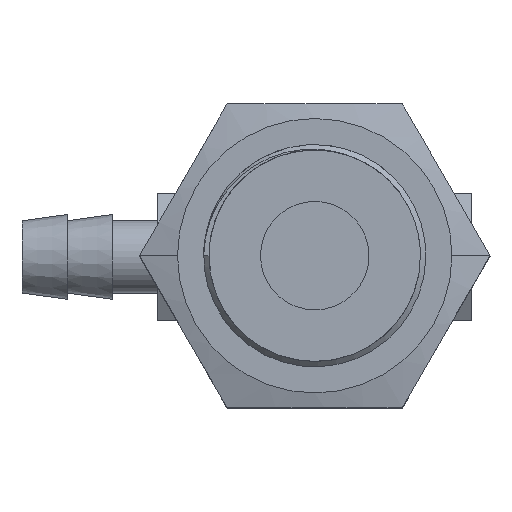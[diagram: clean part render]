
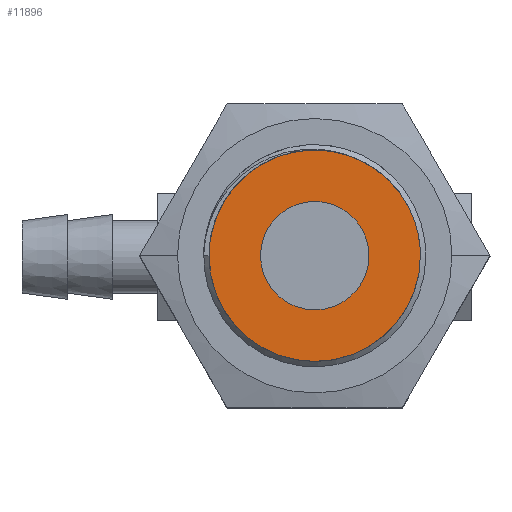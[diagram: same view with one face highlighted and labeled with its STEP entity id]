
A CAD part, top view. The second image highlights one B-rep face of the part: STEP entity #11896.
In plain terms, the highlighted planar face has unit normal (0, 0, 1).
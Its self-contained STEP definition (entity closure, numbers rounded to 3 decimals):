
#7 = CARTESIAN_POINT ( 'NONE',  ( -2.793, 4.449, 24.5 ) ) ;
#278 = ORIENTED_EDGE ( 'NONE', *, *, #583, .F. ) ;
#317 = CIRCLE ( 'NONE', #14668, 3. ) ;
#553 = CARTESIAN_POINT ( 'NONE',  ( 7.038, 0.149, 24.5 ) ) ;
#583 = EDGE_CURVE ( 'NONE', #2892, #2949, #11264, .T. ) ;
#882 = DIRECTION ( 'NONE',  ( 0., 0., 1. ) ) ;
#1067 = CARTESIAN_POINT ( 'NONE',  ( 6.641, 2.298, 24.5 ) ) ;
#1118 = CARTESIAN_POINT ( 'NONE',  ( 2.656, 5.823, 24.5 ) ) ;
#1163 = CARTESIAN_POINT ( 'NONE',  ( -3.486, 3.683, 24.5 ) ) ;
#1382 = DIRECTION ( 'NONE',  ( 0., 0., 1. ) ) ;
#1465 = CARTESIAN_POINT ( 'NONE',  ( 1.188, 0.149, 24.5 ) ) ;
#1896 = ORIENTED_EDGE ( 'NONE', *, *, #5586, .T. ) ;
#2226 = CARTESIAN_POINT ( 'NONE',  ( 1.634, 5.993, 24.5 ) ) ;
#2267 = CARTESIAN_POINT ( 'NONE',  ( -4.034, 2.808, 24.5 ) ) ;
#2382 = EDGE_LOOP ( 'NONE', ( #11613, #1896, #13522 ) ) ;
#2599 = DIRECTION ( 'NONE',  ( -1., 0., 0. ) ) ;
#2694 = VERTEX_POINT ( 'NONE', #9633 ) ;
#2892 = VERTEX_POINT ( 'NONE', #11096 ) ;
#2949 = VERTEX_POINT ( 'NONE', #6749 ) ;
#3332 = CARTESIAN_POINT ( 'NONE',  ( 6.175, 3.228, 24.5 ) ) ;
#3381 = CARTESIAN_POINT ( 'NONE',  ( 0.605, 5.98, 24.5 ) ) ;
#3421 = CARTESIAN_POINT ( 'NONE',  ( -4.42, 1.848, 24.5 ) ) ;
#3730 = AXIS2_PLACEMENT_3D ( 'NONE', #11708, #4892, #12887 ) ;
#4474 = EDGE_LOOP ( 'NONE', ( #11816, #278 ) ) ;
#4486 = CARTESIAN_POINT ( 'NONE',  ( 5.559, 4.053, 24.5 ) ) ;
#4543 = CARTESIAN_POINT ( 'NONE',  ( -0.414, 5.786, 24.5 ) ) ;
#4587 = CARTESIAN_POINT ( 'NONE',  ( -4.631, 0.839, 24.5 ) ) ;
#4892 = DIRECTION ( 'NONE',  ( 0., 0., 1. ) ) ;
#4954 = AXIS2_PLACEMENT_3D ( 'NONE', #1465, #9432, #2599 ) ;
#5586 = EDGE_CURVE ( 'NONE', #10222, #12583, #9090, .T. ) ;
#5633 = CARTESIAN_POINT ( 'NONE',  ( 4.802, 4.762, 24.5 ) ) ;
#5658 = EDGE_CURVE ( 'NONE', #12583, #2694, #6579, .T. ) ;
#5683 = CARTESIAN_POINT ( 'NONE',  ( -1.374, 5.42, 24.5 ) ) ;
#5728 = CARTESIAN_POINT ( 'NONE',  ( -4.662, 0.149, 24.5 ) ) ;
#6575 = DIRECTION ( 'NONE',  ( 0., 0., 1. ) ) ;
#6579 = CIRCLE ( 'NONE', #4954, 5.85 ) ;
#6692 = AXIS2_PLACEMENT_3D ( 'NONE', #13466, #6575, #14610 ) ;
#6749 = CARTESIAN_POINT ( 'NONE',  ( 4.188, 0.149, 24.5 ) ) ;
#6759 = CARTESIAN_POINT ( 'NONE',  ( 3.94, 5.323, 24.5 ) ) ;
#6810 = CARTESIAN_POINT ( 'NONE',  ( -2.263, 4.885, 24.5 ) ) ;
#7088 = EDGE_CURVE ( 'NONE', #2694, #10222, #11714, .T. ) ;
#7676 = CARTESIAN_POINT ( 'NONE',  ( 1.188, 0.149, 24.5 ) ) ;
#7921 = CARTESIAN_POINT ( 'NONE',  ( 2.985, 5.727, 24.5 ) ) ;
#7967 = CARTESIAN_POINT ( 'NONE',  ( -3.038, 4.209, 24.5 ) ) ;
#8179 = CARTESIAN_POINT ( 'NONE',  ( 1.188, 0.149, 24.5 ) ) ;
#8663 = FACE_OUTER_BOUND ( 'NONE', #2382, .T. ) ;
#8834 = DIRECTION ( 'NONE',  ( 1., 0., 0. ) ) ;
#9009 = CARTESIAN_POINT ( 'NONE',  ( 6.749, 1.968, 24.5 ) ) ;
#9054 = CARTESIAN_POINT ( 'NONE',  ( 1.982, 5.956, 24.5 ) ) ;
#9090 = CIRCLE ( 'NONE', #11353, 5.85 ) ;
#9098 = CARTESIAN_POINT ( 'NONE',  ( -3.688, 3.4, 24.5 ) ) ;
#9333 = DIRECTION ( 'NONE',  ( -1., 0., 0. ) ) ;
#9432 = DIRECTION ( 'NONE',  ( 0., 0., 1. ) ) ;
#9633 = CARTESIAN_POINT ( 'NONE',  ( 6.749, 1.968, 24.5 ) ) ;
#10146 = CARTESIAN_POINT ( 'NONE',  ( 6.503, 2.618, 24.5 ) ) ;
#10194 = CARTESIAN_POINT ( 'NONE',  ( 0.947, 6.005, 24.5 ) ) ;
#10222 = VERTEX_POINT ( 'NONE', #10293 ) ;
#10245 = CARTESIAN_POINT ( 'NONE',  ( -4.181, 2.498, 24.5 ) ) ;
#10293 = CARTESIAN_POINT ( 'NONE',  ( -4.662, 0.149, 24.5 ) ) ;
#11096 = CARTESIAN_POINT ( 'NONE',  ( -1.812, 0.149, 24.5 ) ) ;
#11264 = CIRCLE ( 'NONE', #3730, 3. ) ;
#11317 = CARTESIAN_POINT ( 'NONE',  ( 5.986, 3.515, 24.5 ) ) ;
#11353 = AXIS2_PLACEMENT_3D ( 'NONE', #8179, #1382, #9333 ) ;
#11361 = CARTESIAN_POINT ( 'NONE',  ( -0.075, 5.872, 24.5 ) ) ;
#11405 = CARTESIAN_POINT ( 'NONE',  ( -4.51, 1.514, 24.5 ) ) ;
#11613 = ORIENTED_EDGE ( 'NONE', *, *, #7088, .T. ) ;
#11708 = CARTESIAN_POINT ( 'NONE',  ( 1.188, 0.149, 24.5 ) ) ;
#11714 = B_SPLINE_CURVE_WITH_KNOTS ( 'NONE', 3,
 ( #9009, #1067, #10146, #3332, #11317, #4486, #12496, #5633, #13654, #6759, #14784, #7921, #1118, #9054, #2226, #10194, #3381, #11361, #4543, #12542, #5683, #13704, #6810, #7, #7967, #1163, #9098, #2267, #10245, #3421, #11405, #4587, #12595, #5728 ),
 .UNSPECIFIED., .F., .F.,
 ( 4, 2, 2, 2, 2, 2, 2, 2, 2, 2, 2, 2, 2, 2, 2, 2, 4 ),
 ( 0., 0.001, 0.002, 0.003, 0.004, 0.005, 0.006, 0.007, 0.008, 0.009, 0.01, 0.011, 0.012, 0.014, 0.015, 0.016, 0.017 ),
 .UNSPECIFIED. ) ;
#11816 = ORIENTED_EDGE ( 'NONE', *, *, #11893, .F. ) ;
#11893 = EDGE_CURVE ( 'NONE', #2949, #2892, #317, .T. ) ;
#11896 = ADVANCED_FACE ( 'NONE', ( #14792, #8663 ), #12253, .T. ) ;
#12253 = PLANE ( 'NONE',  #6692 ) ;
#12496 = CARTESIAN_POINT ( 'NONE',  ( 5.319, 4.306, 24.5 ) ) ;
#12542 = CARTESIAN_POINT ( 'NONE',  ( -1.062, 5.56, 24.5 ) ) ;
#12583 = VERTEX_POINT ( 'NONE', #553 ) ;
#12595 = CARTESIAN_POINT ( 'NONE',  ( -4.662, 0.497, 24.5 ) ) ;
#12887 = DIRECTION ( 'NONE',  ( 1., 0., 0. ) ) ;
#13466 = CARTESIAN_POINT ( 'NONE',  ( -4.732, -5.771, 24.5 ) ) ;
#13522 = ORIENTED_EDGE ( 'NONE', *, *, #5658, .T. ) ;
#13654 = CARTESIAN_POINT ( 'NONE',  ( 4.527, 4.966, 24.5 ) ) ;
#13704 = CARTESIAN_POINT ( 'NONE',  ( -1.975, 5.082, 24.5 ) ) ;
#14610 = DIRECTION ( 'NONE',  ( 1., 0., 0. ) ) ;
#14668 = AXIS2_PLACEMENT_3D ( 'NONE', #7676, #882, #8834 ) ;
#14784 = CARTESIAN_POINT ( 'NONE',  ( 3.627, 5.478, 24.5 ) ) ;
#14792 = FACE_BOUND ( 'NONE', #4474, .T. ) ;
